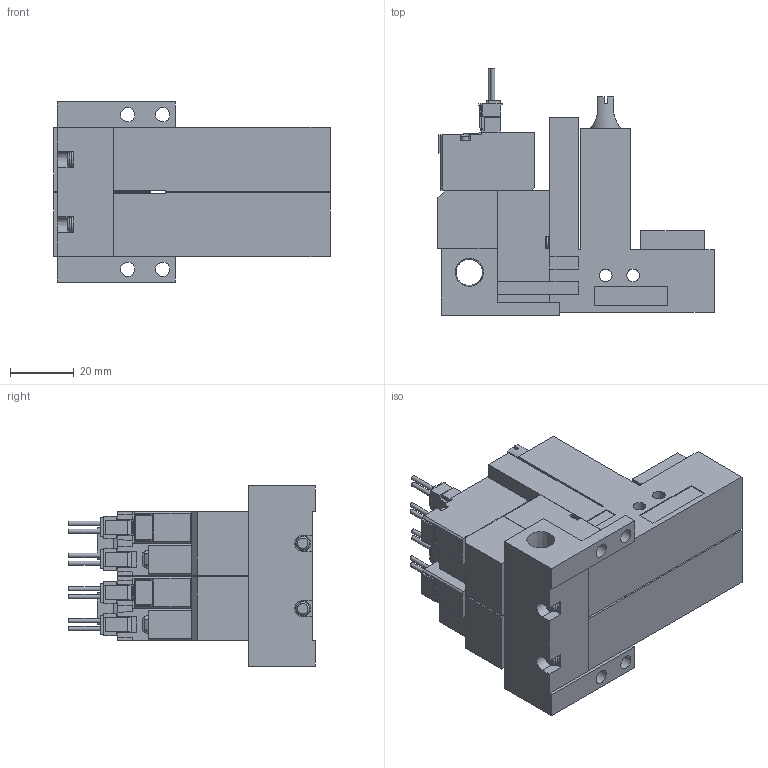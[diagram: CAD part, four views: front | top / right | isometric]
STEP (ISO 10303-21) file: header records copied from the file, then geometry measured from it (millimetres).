
FILE_DESCRIPTION(('STEP AP203'),'1');
FILE_NAME('ZL5ALR202.stp','2025-02-18T06:17:30',(' '),(' '),'Spatial InterOp 3D',' ',' ');
FILE_SCHEMA(('CONFIG_CONTROL_DESIGN'));
Length unit declared in the file: millimetre
Products named in the file (5): BMC22M※※※※ZL5ALR202; Solenoid valve A; Pressure sensor ZL; Unit L; Base MR20R
Assembly tree (7 placements, depth 2):
  BMC22M※※※※ZL5ALR202
    Solenoid valve A  x2
    Pressure sensor ZL  x2
    Unit L  x2
    Base MR20R
Bounding box: 86.6 x 77.45 x 56.5 mm (x, y, z)
Volume: 158952.4 mm3; surface area: 46151.5 mm2
Topology: 7 solids, 7 shells, 713 faces, 1937 edges, 1276 vertices
Faces by surface type: plane 610, cylinder 81, cone 16, torus 6
Full cylindrical faces by diameter (mm): 1.4 x8, 2.5 x2, 3 x8, 3.5 x8, 3.6 x2, 4 x4, 4.134 x2, 4.5 x4, 5.2 x2, 6 x2, 6.6 x2, 8.279 x1
Entity records: 11987 total; most frequent: CARTESIAN_POINT 2214, ORIENTED_EDGE 1942, DIRECTION 1887, EDGE_CURVE 971, LINE 827, VECTOR 827, VERTEX_POINT 667, AXIS2_PLACEMENT_3D 530
